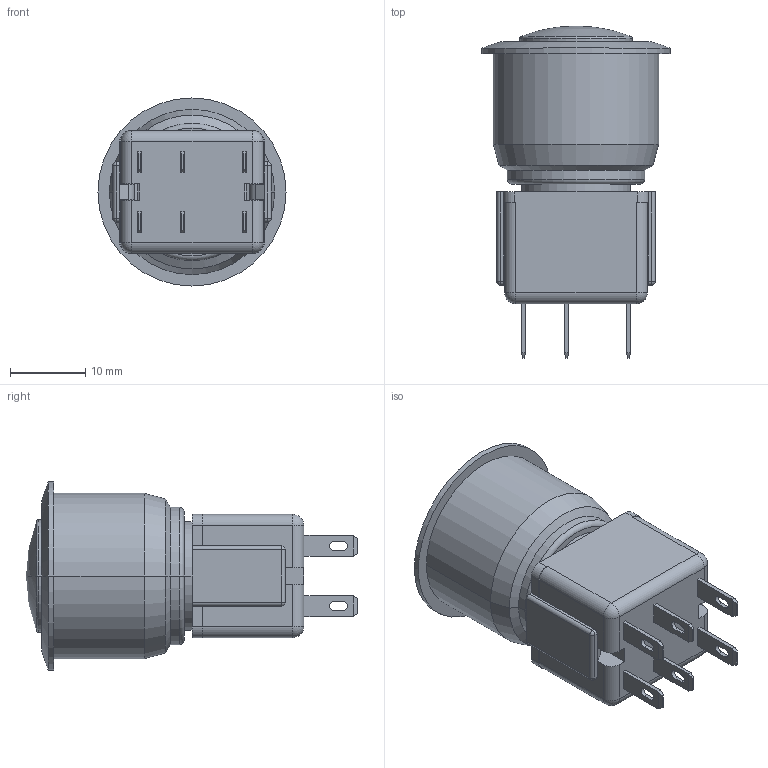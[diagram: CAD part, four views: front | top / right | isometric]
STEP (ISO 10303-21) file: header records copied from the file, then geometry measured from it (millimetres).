
FILE_DESCRIPTION((''),'2;1');
FILE_NAME('AV044746A240K_SW0001','2009-11-16T',('jlgachon'),(''),'PRO/ENGINEER BY PARAMETRIC TECHNOLOGY CORPORATION, 2008400','PRO/ENGINEER BY PARAMETRIC TECHNOLOGY CORPORATION, 2008400','');
FILE_SCHEMA(('CONFIG_CONTROL_DESIGN'));
Length unit declared in the file: millimetre
Products named in the file (1): AV044746A240K_SW0001
Bounding box: 25.05 x 44.2 x 25.05 mm (x, y, z)
Volume: 11979.4 mm3; surface area: 5060.9 mm2
Topology: 1 solids, 3 shells, 227 faces, 570 edges, 359 vertices
Faces by surface type: plane 131, cylinder 62, cone 14, sphere 10, torus 8, bspline 2
Entity records: 6796 total; most frequent: CARTESIAN_POINT 1184, DIRECTION 1176, ORIENTED_EDGE 1136, EDGE_CURVE 568, VECTOR 410, LINE 410, AXIS2_PLACEMENT_3D 383, VERTEX_POINT 359
